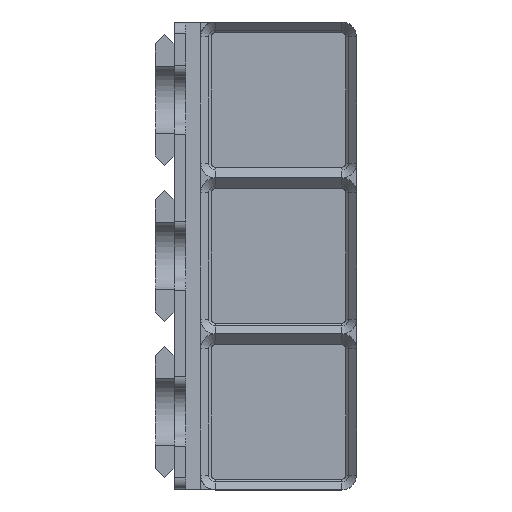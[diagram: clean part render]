
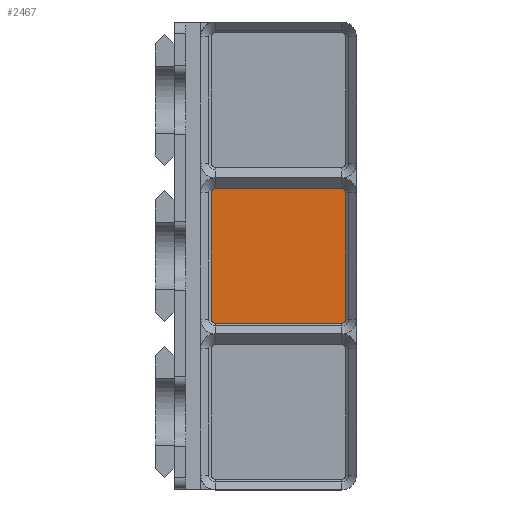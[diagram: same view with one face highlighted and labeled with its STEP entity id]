
A CAD part, top view. The second image highlights one B-rep face of the part: STEP entity #2467.
In plain terms, the highlighted planar face has unit normal (0, 0, 1).
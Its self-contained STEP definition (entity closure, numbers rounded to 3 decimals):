
#81=FACE_OUTER_BOUND('',#239,.T.);
#239=EDGE_LOOP('',(#1640,#1641,#1642,#1643,#1644,#1645,#1646,#1647));
#403=LINE('',#3686,#682);
#404=LINE('',#3690,#683);
#405=LINE('',#3694,#684);
#406=LINE('',#3697,#685);
#682=VECTOR('',#2906,10.);
#683=VECTOR('',#2909,10.);
#684=VECTOR('',#2912,10.);
#685=VECTOR('',#2915,10.);
#961=CIRCLE('',#2644,1.154);
#962=CIRCLE('',#2645,1.154);
#963=CIRCLE('',#2646,1.154);
#964=CIRCLE('',#2647,1.154);
#1055=VERTEX_POINT('',#3682);
#1056=VERTEX_POINT('',#3683);
#1057=VERTEX_POINT('',#3685);
#1058=VERTEX_POINT('',#3687);
#1059=VERTEX_POINT('',#3689);
#1060=VERTEX_POINT('',#3691);
#1061=VERTEX_POINT('',#3693);
#1062=VERTEX_POINT('',#3695);
#1271=EDGE_CURVE('',#1055,#1056,#961,.F.);
#1272=EDGE_CURVE('',#1056,#1057,#403,.F.);
#1273=EDGE_CURVE('',#1057,#1058,#962,.F.);
#1274=EDGE_CURVE('',#1058,#1059,#404,.F.);
#1275=EDGE_CURVE('',#1059,#1060,#963,.F.);
#1276=EDGE_CURVE('',#1060,#1061,#405,.F.);
#1277=EDGE_CURVE('',#1061,#1062,#964,.F.);
#1278=EDGE_CURVE('',#1062,#1055,#406,.F.);
#1640=ORIENTED_EDGE('',*,*,#1271,.T.);
#1641=ORIENTED_EDGE('',*,*,#1272,.T.);
#1642=ORIENTED_EDGE('',*,*,#1273,.T.);
#1643=ORIENTED_EDGE('',*,*,#1274,.T.);
#1644=ORIENTED_EDGE('',*,*,#1275,.T.);
#1645=ORIENTED_EDGE('',*,*,#1276,.T.);
#1646=ORIENTED_EDGE('',*,*,#1277,.T.);
#1647=ORIENTED_EDGE('',*,*,#1278,.T.);
#2371=PLANE('',#2643);
#2467=ADVANCED_FACE('',(#81),#2371,.F.);
#2643=AXIS2_PLACEMENT_3D('',#3681,#2902,#2903);
#2644=AXIS2_PLACEMENT_3D('',#3684,#2904,#2905);
#2645=AXIS2_PLACEMENT_3D('',#3688,#2907,#2908);
#2646=AXIS2_PLACEMENT_3D('',#3692,#2910,#2911);
#2647=AXIS2_PLACEMENT_3D('',#3696,#2913,#2914);
#2902=DIRECTION('center_axis',(0.,0.,-1.));
#2903=DIRECTION('ref_axis',(1.,0.,0.));
#2904=DIRECTION('center_axis',(0.,0.,-1.));
#2905=DIRECTION('ref_axis',(0.,-1.,0.));
#2906=DIRECTION('',(-1.,0.,0.));
#2907=DIRECTION('center_axis',(0.,0.,-1.));
#2908=DIRECTION('ref_axis',(1.,0.,0.));
#2909=DIRECTION('',(0.,-1.,0.));
#2910=DIRECTION('center_axis',(0.,0.,-1.));
#2911=DIRECTION('ref_axis',(0.,1.,0.));
#2912=DIRECTION('',(1.,0.,0.));
#2913=DIRECTION('center_axis',(0.,0.,-1.));
#2914=DIRECTION('ref_axis',(-1.,0.,0.));
#2915=DIRECTION('',(0.,1.,0.));
#3681=CARTESIAN_POINT('Origin',(120.65,42.,-142.124));
#3682=CARTESIAN_POINT('',(105.996,25.,-142.124));
#3683=CARTESIAN_POINT('',(107.15,23.846,-142.124));
#3684=CARTESIAN_POINT('Origin',(107.15,25.,-142.124));
#3685=CARTESIAN_POINT('',(141.15,23.846,-142.124));
#3686=CARTESIAN_POINT('',(132.65,23.846,-142.124));
#3687=CARTESIAN_POINT('',(142.304,25.,-142.124));
#3688=CARTESIAN_POINT('Origin',(141.15,25.,-142.124));
#3689=CARTESIAN_POINT('',(142.304,59.,-142.124));
#3690=CARTESIAN_POINT('',(142.304,50.5,-142.124));
#3691=CARTESIAN_POINT('',(141.15,60.154,-142.124));
#3692=CARTESIAN_POINT('Origin',(141.15,59.,-142.124));
#3693=CARTESIAN_POINT('',(107.15,60.154,-142.124));
#3694=CARTESIAN_POINT('',(115.65,60.154,-142.124));
#3695=CARTESIAN_POINT('',(105.996,59.,-142.124));
#3696=CARTESIAN_POINT('Origin',(107.15,59.,-142.124));
#3697=CARTESIAN_POINT('',(105.996,42.,-142.124));
